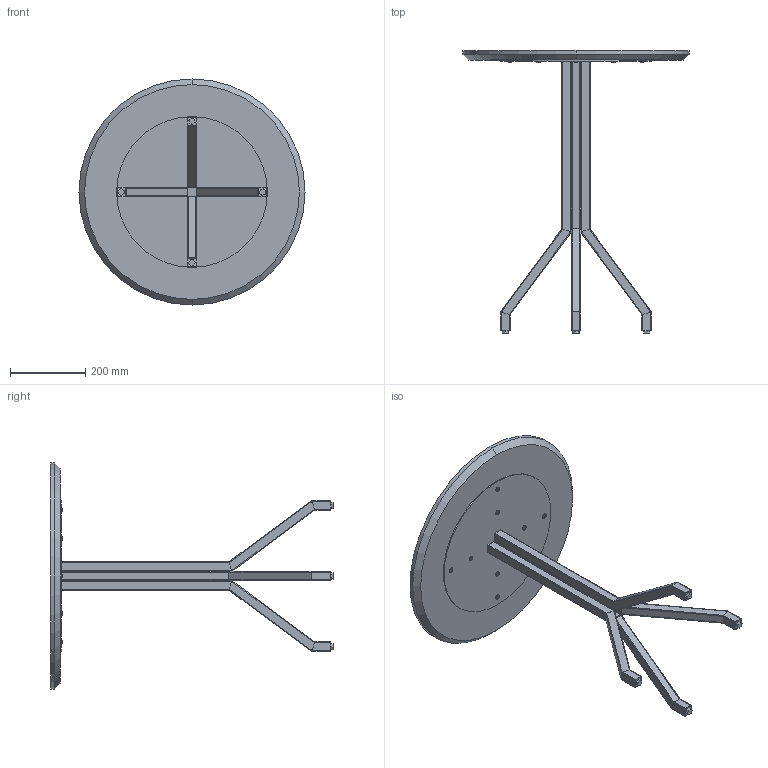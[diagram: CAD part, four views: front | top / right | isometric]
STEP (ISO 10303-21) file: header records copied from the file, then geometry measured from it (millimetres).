
FILE_DESCRIPTION (( 'STEP AP214' ), '1' );
FILE_NAME ('Chakra Table - D600xH750.STEP', '2024-04-04T12:14:26', ( '' ), ( '' ), 'SwSTEP 2.0', 'SolidWorks 2023', '' );
FILE_SCHEMA (( 'AUTOMOTIVE_DESIGN' ));
Length unit declared in the file: millimetre
Products named in the file (8): Chakra Table - D600xH750; Metal Sheet; Metal Frame_Default<As Machined>; M6x20MM Hex Leveller; Bush; M6x16MM Flate head allen Bolt; Wooden Top; Wood insert nut_M6
Assembly tree (27 placements, depth 2):
  Chakra Table - D600xH750
    Metal Frame_Default<As Machined>
    Bush  x4
    M6x16MM Flate head allen Bolt  x8
    M6x20MM Hex Leveller  x4
    Metal Sheet
    Wood insert nut_M6  x8
    Wooden Top
Bounding box: 600 x 750 x 600 mm (x, y, z)
Volume: 7766789.9 mm3; surface area: 1535766.6 mm2
Topology: 47 solids, 47 shells, 1472 faces, 3852 edges, 2502 vertices
Faces by surface type: cylinder 840, plane 458, torus 76, bspline 64, cone 34
Entity records: 25520 total; most frequent: CARTESIAN_POINT 12141, ORIENTED_EDGE 2854, DIRECTION 2491, EDGE_CURVE 1427, VERTEX_POINT 942, AXIS2_PLACEMENT_3D 858, VECTOR 775, LINE 775
